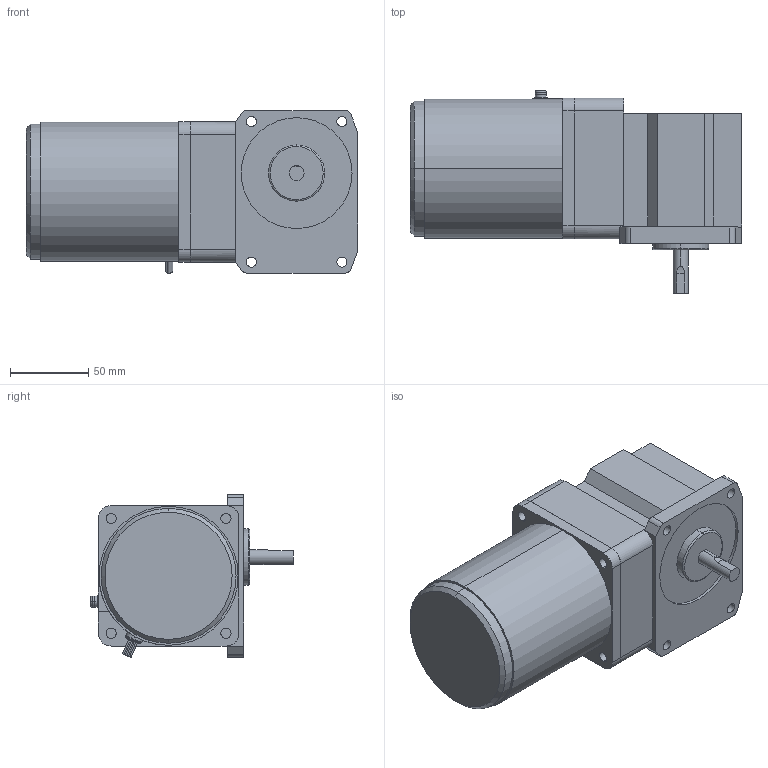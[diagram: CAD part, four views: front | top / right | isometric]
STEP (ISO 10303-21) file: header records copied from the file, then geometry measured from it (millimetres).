
FILE_DESCRIPTION(('starvars output'),'2;1');
FILE_NAME('5RK40GN-AW2U _ 5GN15RAA.stp','13:46:03 2015/05/11',( 'Thomas Industrial Network Germany GmbH'),( 'Thomas Industrial Network Germany GmbH'),'unknown preprocess','ACIS' ,'unknown authorization');
FILE_SCHEMA(('AUTOMOTIVE_DESIGN_CC2 {UNKNOWN IMPLEMENTATION LEVEL}'));
Length unit declared in the file: millimetre
Products named in the file (1): PRODUCT_ID_2084
Bounding box: 212 x 130 x 104.23 mm (x, y, z)
Volume: 1417123.4 mm3; surface area: 88784.6 mm2
Topology: 1 solids, 1 shells, 140 faces, 343 edges, 225 vertices
Faces by surface type: cylinder 66, plane 64, torus 8, cone 2
Entity records: 5056 total; most frequent: CARTESIAN_POINT 724, ORIENTED_EDGE 686, DIRECTION 600, EDGE_CURVE 343, VERTEX_POINT 225, AXIS2_PLACEMENT_3D 207, VECTOR 186, LINE 186
